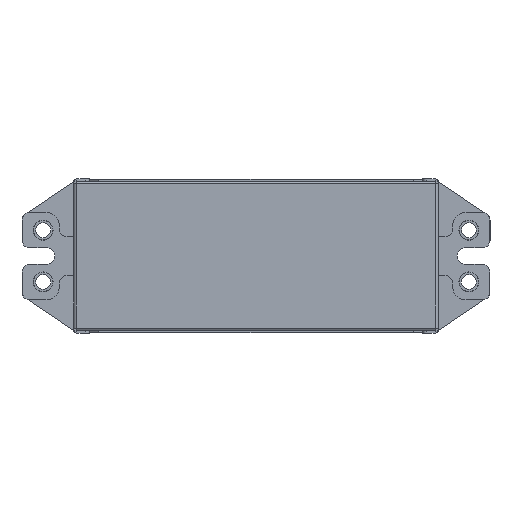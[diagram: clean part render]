
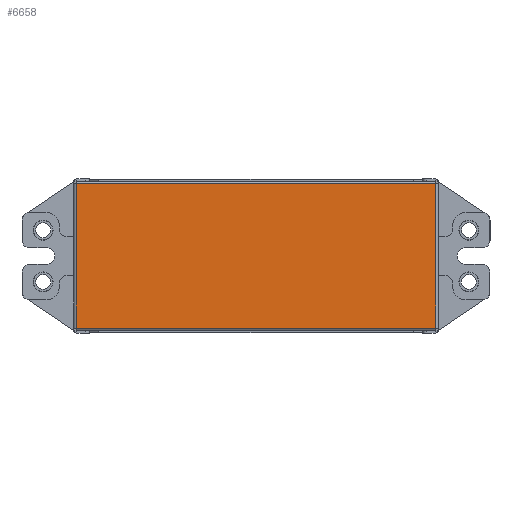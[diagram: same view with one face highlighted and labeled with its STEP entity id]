
A CAD part, top view. The second image highlights one B-rep face of the part: STEP entity #6658.
In plain terms, the highlighted planar face has unit normal (0, 0, 1).
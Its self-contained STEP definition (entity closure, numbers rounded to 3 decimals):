
#2861 = DIRECTION ( 'NONE',  ( 0., -1., 0. ) ) ;
#2967 = CARTESIAN_POINT ( 'NONE',  ( 46.8, -18.8, 0. ) ) ;
#2968 = LINE ( 'NONE', #2967, #3172 ) ;
#2990 = VECTOR ( 'NONE', #2861, 1000. ) ;
#3047 = DIRECTION ( 'NONE',  ( 1., 0., 0. ) ) ;
#3051 = LINE ( 'NONE', #3170, #2990 ) ;
#3170 = CARTESIAN_POINT ( 'NONE',  ( -46.8, 19.4, 0. ) ) ;
#3172 = VECTOR ( 'NONE', #3047, 1000. ) ;
#3227 = CARTESIAN_POINT ( 'NONE',  ( -46.8, 18.8, 0. ) ) ;
#3231 = CARTESIAN_POINT ( 'NONE',  ( 46.8, 18.8, 0. ) ) ;
#3238 = LINE ( 'NONE', #3274, #3279 ) ;
#3247 = CARTESIAN_POINT ( 'NONE',  ( -46.8, -18.8, 0. ) ) ;
#3269 = CARTESIAN_POINT ( 'NONE',  ( 46.8, -18.8, 0. ) ) ;
#3273 = DIRECTION ( 'NONE',  ( -1., 0., 0. ) ) ;
#3274 = CARTESIAN_POINT ( 'NONE',  ( -46.8, 18.8, 0. ) ) ;
#3279 = VECTOR ( 'NONE', #3273, 1000. ) ;
#3305 = DIRECTION ( 'NONE',  ( 0., 1., 0. ) ) ;
#3306 = VECTOR ( 'NONE', #3305, 1000. ) ;
#3327 = PLANE ( 'NONE',  #3410 ) ;
#3372 = CARTESIAN_POINT ( 'NONE',  ( 46.8, -19.4, 0. ) ) ;
#3379 = CARTESIAN_POINT ( 'NONE',  ( -47.5, -19.4, 0. ) ) ;
#3380 = FACE_OUTER_BOUND ( 'NONE', #6645, .T. ) ;
#3407 = DIRECTION ( 'NONE',  ( 1., 0., 0. ) ) ;
#3408 = DIRECTION ( 'NONE',  ( 0., 0., 1. ) ) ;
#3410 = AXIS2_PLACEMENT_3D ( 'NONE', #3379, #3408, #3407 ) ;
#3426 = LINE ( 'NONE', #3372, #3306 ) ;
#5439 = ORIENTED_EDGE ( 'NONE', *, *, #6616, .T. ) ;
#6413 = EDGE_CURVE ( 'NONE', #6493, #6606, #3051, .T. ) ;
#6424 = ORIENTED_EDGE ( 'NONE', *, *, #6723, .T. ) ;
#6471 = VERTEX_POINT ( 'NONE', #3269 ) ;
#6493 = VERTEX_POINT ( 'NONE', #3227 ) ;
#6552 = VERTEX_POINT ( 'NONE', #3231 ) ;
#6565 = ORIENTED_EDGE ( 'NONE', *, *, #6573, .T. ) ;
#6573 = EDGE_CURVE ( 'NONE', #6552, #6493, #3238, .T. ) ;
#6606 = VERTEX_POINT ( 'NONE', #3247 ) ;
#6616 = EDGE_CURVE ( 'NONE', #6606, #6471, #2968, .T. ) ;
#6645 = EDGE_LOOP ( 'NONE', ( #6424, #6565, #6660, #5439 ) ) ;
#6658 = ADVANCED_FACE ( 'NONE', ( #3380 ), #3327, .T. ) ;
#6660 = ORIENTED_EDGE ( 'NONE', *, *, #6413, .T. ) ;
#6723 = EDGE_CURVE ( 'NONE', #6471, #6552, #3426, .T. ) ;
